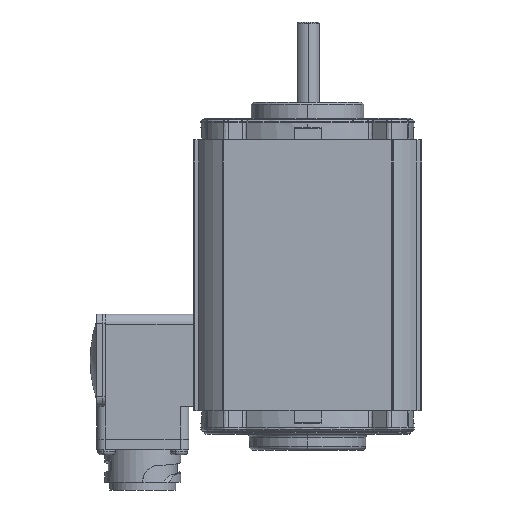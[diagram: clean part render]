
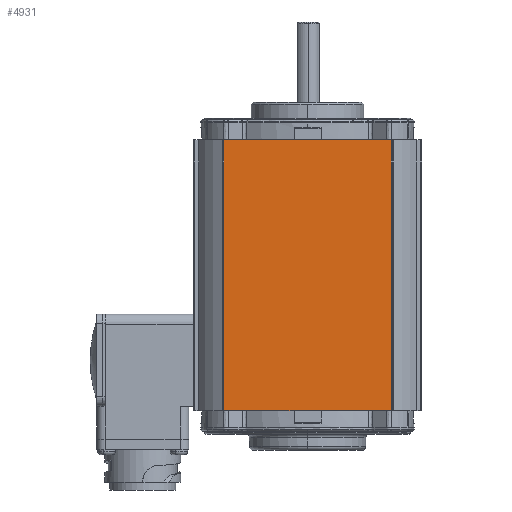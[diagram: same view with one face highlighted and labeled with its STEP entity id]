
A CAD part, left-side view. The second image highlights one B-rep face of the part: STEP entity #4931.
In plain terms, the highlighted planar face has unit normal (-1, 0, 0).
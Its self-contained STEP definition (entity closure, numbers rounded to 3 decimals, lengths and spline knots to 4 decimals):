
#4789 = ORIENTED_EDGE ( 'NONE', *, *, #5064, .T. ) ;
#4927 = ORIENTED_EDGE ( 'NONE', *, *, #4928, .T. ) ;
#4928 = EDGE_CURVE ( 'NONE', #4929, #4938, #39898, .T. ) ;
#4929 = VERTEX_POINT ( 'NONE', #39894 ) ;
#4930 = EDGE_CURVE ( 'NONE', #4938, #4939, #39893, .T. ) ;
#4931 = ADVANCED_FACE ( 'NONE', ( #39889 ), #39952, .F. ) ;
#4937 = EDGE_LOOP ( 'NONE', ( #4927, #22892, #22811, #4789 ) ) ;
#4938 = VERTEX_POINT ( 'NONE', #39937 ) ;
#4939 = VERTEX_POINT ( 'NONE', #39936 ) ;
#5064 = EDGE_CURVE ( 'NONE', #22887, #4929, #40198, .T. ) ;
#22811 = ORIENTED_EDGE ( 'NONE', *, *, #22893, .T. ) ;
#22887 = VERTEX_POINT ( 'NONE', #32292 ) ;
#22892 = ORIENTED_EDGE ( 'NONE', *, *, #4930, .T. ) ;
#22893 = EDGE_CURVE ( 'NONE', #4939, #22887, #32291, .T. ) ;
#32288 = DIRECTION ( 'NONE',  ( 0., -1., 0. ) ) ;
#32289 = VECTOR ( 'NONE', #32288, 39.3701 ) ;
#32290 = CARTESIAN_POINT ( 'NONE',  ( -1.7765, -1.325, 0. ) ) ;
#32291 = LINE ( 'NONE', #32290, #32289 ) ;
#32292 = CARTESIAN_POINT ( 'NONE',  ( -1.7765, -1.305, 0. ) ) ;
#39889 = FACE_OUTER_BOUND ( 'NONE', #4937, .T. ) ;
#39890 = DIRECTION ( 'NONE',  ( 0., 0., -1. ) ) ;
#39891 = VECTOR ( 'NONE', #39890, 39.3701 ) ;
#39892 = CARTESIAN_POINT ( 'NONE',  ( -1.7765, 1.305, 6.262 ) ) ;
#39893 = LINE ( 'NONE', #39892, #39891 ) ;
#39894 = CARTESIAN_POINT ( 'NONE',  ( -1.7765, -1.305, 4.215 ) ) ;
#39895 = DIRECTION ( 'NONE',  ( 0., 1., 0. ) ) ;
#39896 = VECTOR ( 'NONE', #39895, 39.3701 ) ;
#39897 = CARTESIAN_POINT ( 'NONE',  ( -1.7765, 1.305, 4.215 ) ) ;
#39898 = LINE ( 'NONE', #39897, #39896 ) ;
#39936 = CARTESIAN_POINT ( 'NONE',  ( -1.7765, 1.305, 0. ) ) ;
#39937 = CARTESIAN_POINT ( 'NONE',  ( -1.7765, 1.305, 4.215 ) ) ;
#39948 = DIRECTION ( 'NONE',  ( 0., 0., -1. ) ) ;
#39949 = DIRECTION ( 'NONE',  ( 1., 0., 0. ) ) ;
#39950 = CARTESIAN_POINT ( 'NONE',  ( -1.7765, -1.325, 6.262 ) ) ;
#39951 = AXIS2_PLACEMENT_3D ( 'NONE', #39950, #39949, #39948 ) ;
#39952 = PLANE ( 'NONE',  #39951 ) ;
#40195 = DIRECTION ( 'NONE',  ( 0., 0., 1. ) ) ;
#40196 = VECTOR ( 'NONE', #40195, 39.3701 ) ;
#40197 = CARTESIAN_POINT ( 'NONE',  ( -1.7765, -1.305, 6.262 ) ) ;
#40198 = LINE ( 'NONE', #40197, #40196 ) ;
